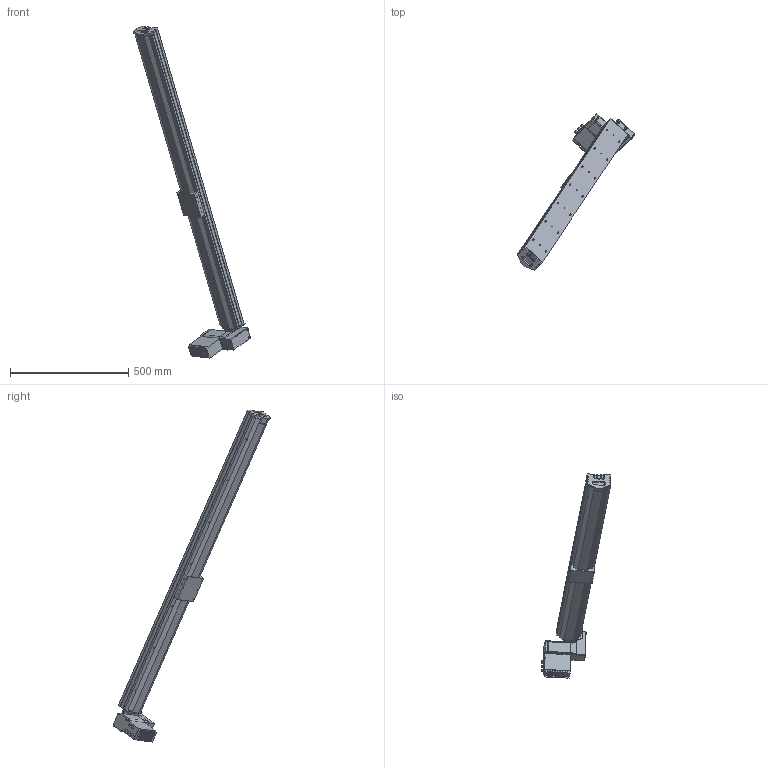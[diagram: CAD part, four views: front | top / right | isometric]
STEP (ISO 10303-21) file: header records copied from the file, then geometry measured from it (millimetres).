
FILE_DESCRIPTION (( 'STEP AP203' ), '1' );
FILE_NAME ('S10 CBH RT S1400.STEP', '2012-10-01T11:48:18', ( '' ), ( '' ), 'SwSTEP 2.0', 'SolidWorks 2010', '' );
FILE_SCHEMA (( 'CONFIG_CONTROL_DESIGN' ));
Length unit declared in the file: millimetre
Products named in the file (9): axe 1400; plaque de bout; palette tbh; S10 CBH RT S1400; embout; moteur M3; MOTEUR GMI 61 ; Plaque racord_; moteur M3_1
Assembly tree (7 placements, depth 3):
  S10 CBH RT S1400
    MOTEUR GMI 61 
    plaque de bout
      moteur M3_1
      Plaque racord_
    axe 1400
    embout
    palette tbh
  moteur M3
Bounding box: 497.05 x 664.4 x 1403.53 mm (x, y, z)
Volume: 8275967.1 mm3; surface area: 845078.9 mm2
Topology: 5 solids, 18 shells, 765 faces, 1988 edges, 1248 vertices
Faces by surface type: plane 381, cylinder 275, cone 74, torus 23, bspline 8, sphere 4
Entity records: 26505 total; most frequent: CARTESIAN_POINT 6809, DIRECTION 3987, ORIENTED_EDGE 3728, EDGE_CURVE 1914, AXIS2_PLACEMENT_3D 1374, VERTEX_POINT 1248, LINE 1239, VECTOR 1239
